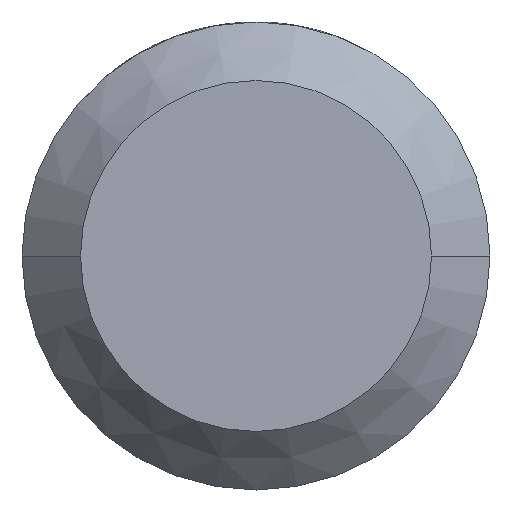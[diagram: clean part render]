
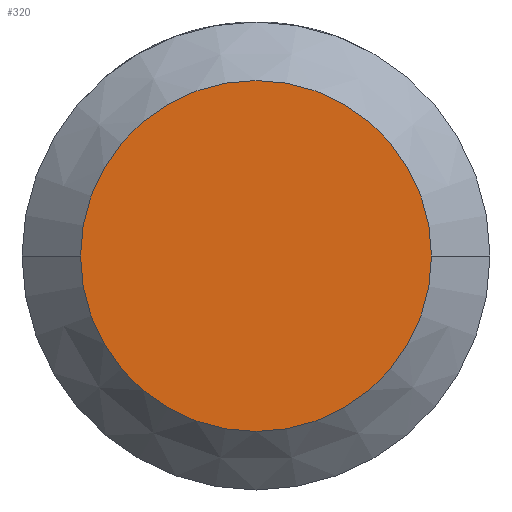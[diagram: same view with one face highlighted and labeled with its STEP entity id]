
A CAD part, front view. The second image highlights one B-rep face of the part: STEP entity #320.
In plain terms, the highlighted planar face has unit normal (0, -1, 0).
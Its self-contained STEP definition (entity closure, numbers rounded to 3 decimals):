
#294 = CIRCLE ( 'NONE', #295, 1.5 ) ;
#295 = AXIS2_PLACEMENT_3D ( 'NONE', #296, #297, #298 ) ;
#296 = CARTESIAN_POINT ( 'NONE',  ( 0., 0., 0. ) ) ;
#297 = DIRECTION ( 'NONE',  ( 0., -1., 0. ) ) ;
#298 = DIRECTION ( 'NONE',  ( 1., 0., 0. ) ) ;
#320 = ADVANCED_FACE ( 'NONE', ( #4363 ), #4364, .T. ) ;
#1181 = CARTESIAN_POINT ( 'NONE',  ( -1.5, 0., 0. ) ) ;
#2859 = ORIENTED_EDGE ( 'NONE', *, *, #3220, .T. ) ;
#3220 = EDGE_CURVE ( 'NONE', #3478, #3322, #294, .T. ) ;
#3322 = VERTEX_POINT ( 'NONE', #1181 ) ;
#3468 = ORIENTED_EDGE ( 'NONE', *, *, #3519, .T. ) ;
#3478 = VERTEX_POINT ( 'NONE', #4417 ) ;
#3519 = EDGE_CURVE ( 'NONE', #3322, #3478, #4531, .T. ) ;
#3568 = EDGE_LOOP ( 'NONE', ( #3468, #2859 ) ) ;
#4363 = FACE_OUTER_BOUND ( 'NONE', #3568, .T. ) ;
#4364 = PLANE ( 'NONE',  #4365 ) ;
#4365 = AXIS2_PLACEMENT_3D ( 'NONE', #4366, #4371, #4372 ) ;
#4366 = CARTESIAN_POINT ( 'NONE',  ( 0., 0., 0. ) ) ;
#4371 = DIRECTION ( 'NONE',  ( 0., -1., 0. ) ) ;
#4372 = DIRECTION ( 'NONE',  ( 1., 0., 0. ) ) ;
#4417 = CARTESIAN_POINT ( 'NONE',  ( 1.5, 0., 0. ) ) ;
#4531 = CIRCLE ( 'NONE', #4532, 1.5 ) ;
#4532 = AXIS2_PLACEMENT_3D ( 'NONE', #4533, #4534, #4535 ) ;
#4533 = CARTESIAN_POINT ( 'NONE',  ( 0., 0., 0. ) ) ;
#4534 = DIRECTION ( 'NONE',  ( 0., -1., 0. ) ) ;
#4535 = DIRECTION ( 'NONE',  ( 1., 0., 0. ) ) ;
